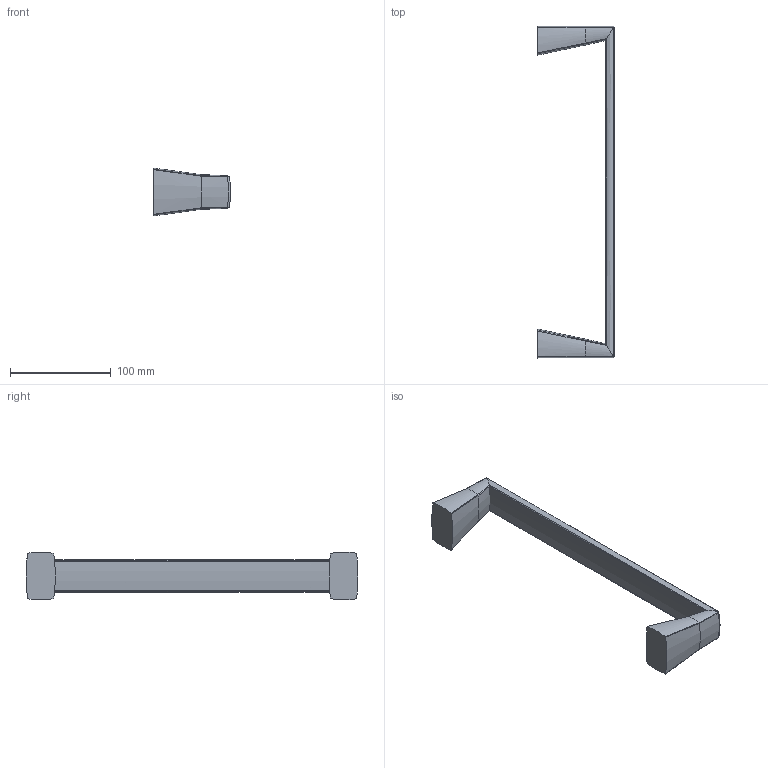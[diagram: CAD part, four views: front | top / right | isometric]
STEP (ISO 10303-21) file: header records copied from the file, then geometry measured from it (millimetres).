
FILE_DESCRIPTION(('STEP AP242'), '1');
FILE_NAME('89CR001', '', ('UNSPECIFIED'), ('UNSPECIFIED'), 'ASCON STEP Converter 1.6', 'ASCON Math Kernel', '');
FILE_SCHEMA(('AP242_MANAGED_MODEL_BASED_3D_ENGINEERING_MIM_LF { 1 0 10303 442 1 1 4 }'));
Length unit declared in the file: millimetre
Bounding box: 75.82 x 328.83 x 47.18 mm (x, y, z)
Volume: 196559.2 mm3; surface area: 42351.4 mm2
Topology: 1 solids, 1 shells, 52 faces, 126 edges, 76 vertices
Faces by surface type: bspline 50, plane 2
Entity records: 5761 total; most frequent: CARTESIAN_POINT 4427, ORIENTED_EDGE 252, EDGE_CURVE 126, B_SPLINE_CURVE_WITH_KNOTS 96, VERTEX_POINT 76, DIRECTION 58, COLOUR_RGB 53, FILL_AREA_STYLE_COLOUR 53
